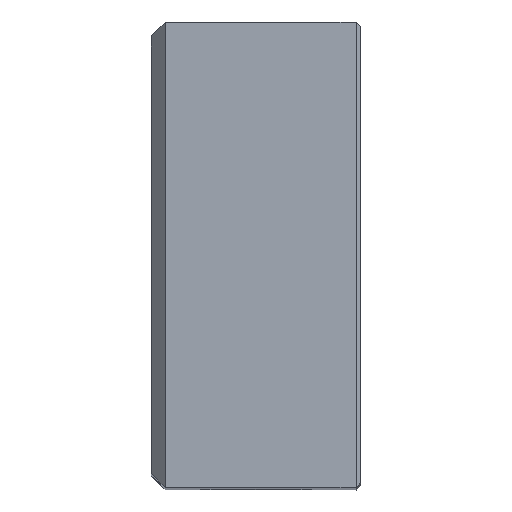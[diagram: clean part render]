
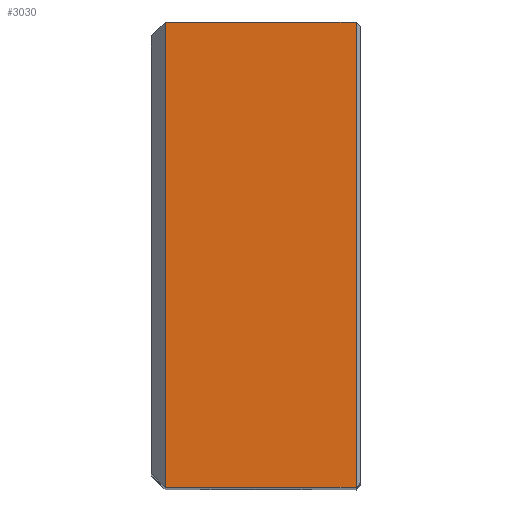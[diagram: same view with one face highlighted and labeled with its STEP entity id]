
A CAD part, top view. The second image highlights one B-rep face of the part: STEP entity #3030.
In plain terms, the highlighted planar face has unit normal (0, 0, 1).
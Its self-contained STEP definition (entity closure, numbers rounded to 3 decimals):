
#259=VERTEX_POINT(' ',#260);
#260=CARTESIAN_POINT('',(44.,-50.,0.));
#269=VERTEX_POINT(' ',#270);
#270=CARTESIAN_POINT('',(44.,50.,0.));
#303=VERTEX_POINT(' ',#304);
#304=CARTESIAN_POINT('',(3.,-50.,0.));
#311=VERTEX_POINT(' ',#312);
#312=CARTESIAN_POINT('',(3.,50.,0.));
#1415=LINE('',#1416,#1417);
#1416=CARTESIAN_POINT('',(44.,55.657,0.));
#1417=VECTOR('',#1418,1.);
#1418=DIRECTION('',(0.,-1.,0.));
#1419=EDGE_CURVE(' ',#269,#259,#1415,.T.);
#1579=LINE('',#1580,#1581);
#1580=CARTESIAN_POINT('',(45.12,-50.,0.));
#1581=VECTOR('',#1582,1.);
#1582=DIRECTION('',(-1.,0.,0.));
#1583=EDGE_CURVE(' ',#259,#303,#1579,.T.);
#1618=LINE('',#1619,#1620);
#1619=CARTESIAN_POINT('',(3.,-63.971,0.));
#1620=VECTOR('',#1621,1.);
#1621=DIRECTION('',(0.,1.,0.));
#1622=EDGE_CURVE(' ',#303,#311,#1618,.T.);
#1623=LINE('',#1624,#1625);
#1624=CARTESIAN_POINT('',(45.12,50.,0.));
#1625=VECTOR('',#1626,1.);
#1626=DIRECTION('',(-1.,0.,0.));
#1627=EDGE_CURVE(' ',#269,#311,#1623,.T.);
#3019=ORIENTED_EDGE('',*,*,#1622,.F.);
#3020=ORIENTED_EDGE('',*,*,#1583,.F.);
#3021=ORIENTED_EDGE('',*,*,#1419,.F.);
#3022=ORIENTED_EDGE('',*,*,#1627,.T.);
#3023=EDGE_LOOP('',(#3019,#3020,#3021,#3022));
#3024=FACE_OUTER_BOUND('',#3023,.T.);
#3025=PLANE('',#3026);
#3026=AXIS2_PLACEMENT_3D('',#3027,#3028,#3029);
#3027=CARTESIAN_POINT('',(0.,-50.,0.));
#3028=DIRECTION('',(0.,0.,1.));
#3029=DIRECTION('',(0.,1.,0.));
#3030=ADVANCED_FACE('',(#3024),#3025,.T.);
